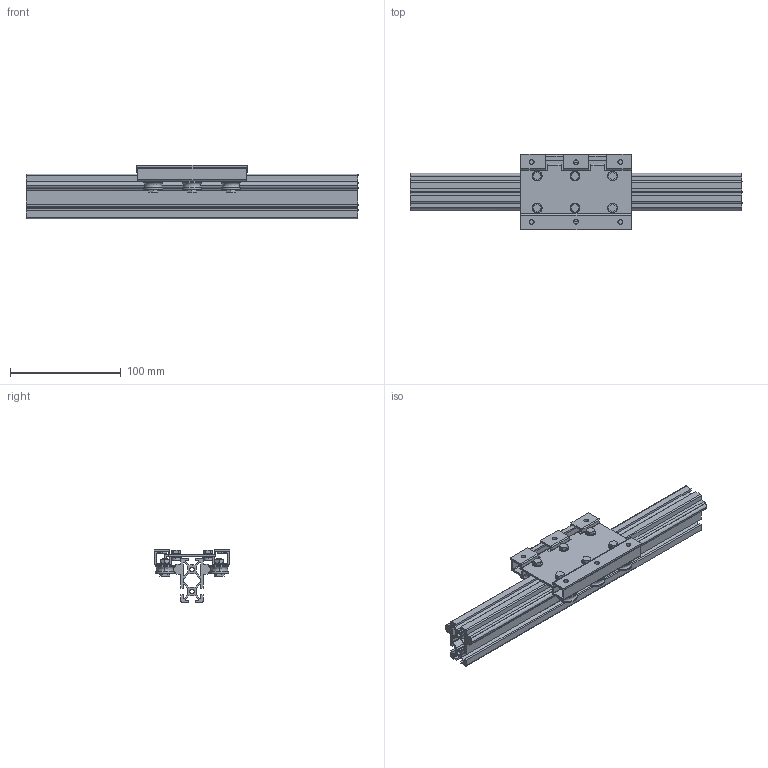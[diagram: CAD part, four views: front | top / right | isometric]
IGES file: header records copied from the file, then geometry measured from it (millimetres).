
Global section: file name: No Iges File Name specified; native system: AutoDesk Inventor R11.0; preprocessor: AutoDesk Inventor Iges Exporter R11.0; author: No Author specified; organization: No Organization specified; date: 20170802.093410; units: millimetre
Bounding box: 300 x 68 x 48 mm (x, y, z)
Surface area: 141818.9 mm2 (no closed solid volume)
Topology: 0 solids, 0 shells, 734 faces, 4272 edges, 4272 vertices
Faces by surface type: bspline 734
